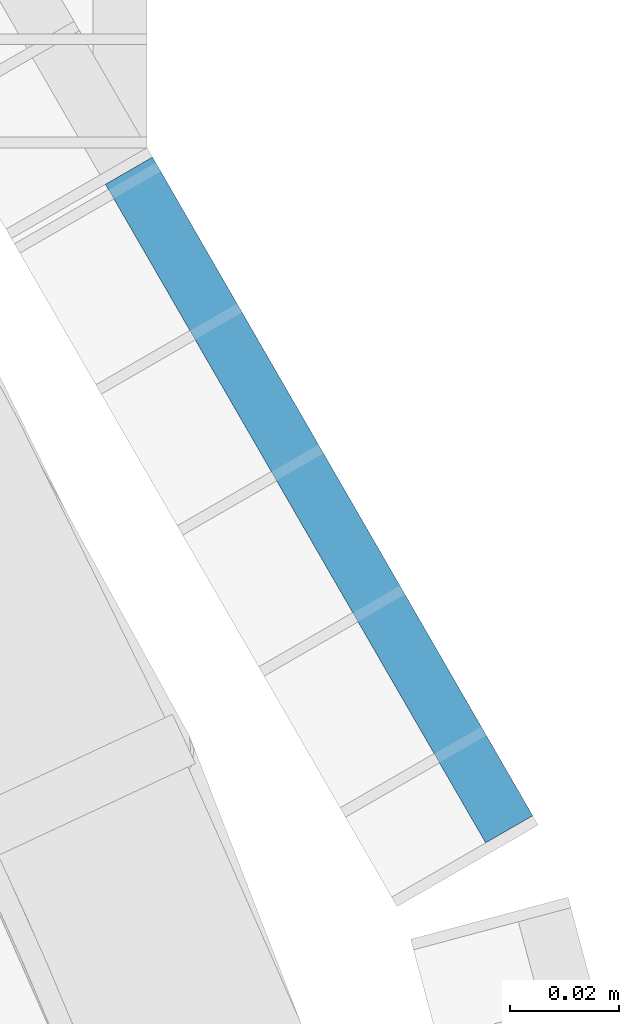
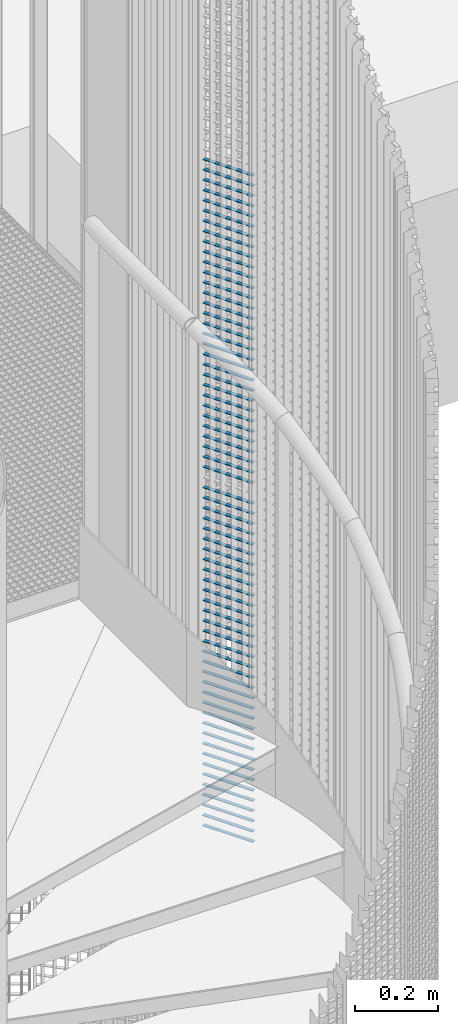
# One storey, part 281 of 1148: 65 beams, 1 element without a shape of its own.
"""IFC2X3 building model written with IfcOpenShell, lengths in millimetres."""

from ifc_helpers import new_model, si_unit, frame, origin_with_axes, origin_2d_with_axis, place, context, subcontext, project, spatial, rectangle, extrude, material, type_object, element, aggregate, save


model = new_model("IFC2X3")

# Units and contexts
model_context = context("Model", 3, precision=1e-05, world=origin_with_axes())
body_context = subcontext(model_context, "Body", "Model", "MODEL_VIEW")
ifc_project = project(units=[si_unit("LENGTHUNIT", "METRE", prefix="MILLI"), si_unit("AREAUNIT", "SQUARE_METRE"), si_unit("VOLUMEUNIT", "CUBIC_METRE"), si_unit("MASSUNIT", "GRAM", prefix="KILO"), si_unit("TIMEUNIT", "SECOND"), si_unit("PLANEANGLEUNIT", "RADIAN"), si_unit("SOLIDANGLEUNIT", "STERADIAN"), si_unit("THERMODYNAMICTEMPERATUREUNIT", "DEGREE_CELSIUS"), si_unit("LUMINOUSINTENSITYUNIT", "LUMEN")], contexts=[model_context])

# Site, building, storey
site_placement = place(None, origin_with_axes())
site = spatial("IfcSite", under=ifc_project, at=site_placement, Name="Undefined", CompositionType="ELEMENT")
building_placement = place(site_placement, origin_with_axes())
building = spatial("IfcBuilding", under=site, at=building_placement, Name="Undefined", CompositionType="ELEMENT")
storey_placement = place(building_placement, origin_with_axes())
storey = spatial("IfcBuildingStorey", under=building, at=storey_placement, Name="Undefined", CompositionType="ELEMENT", Elevation=0.0)

# Assembly, beams
assembly_placement = place(storey_placement, origin_with_axes())
assembly = element("IfcElementAssembly", 1, at=assembly_placement, inside=storey, Name="BORDURE", AssemblyPlace="NOTDEFINED", PredefinedType="NOTDEFINED")
ifc_material = material(Name="STEEL/S235JR")
beam_type = type_object("IfcBeamType", Name="PL2*10", PredefinedType="NOTDEFINED")
beam_1_placement = place(assembly_placement, frame((1033.29994283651, 437.231999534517, 8040.0), z_axis=(0.866030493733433, 0.499991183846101, 0.0), x_axis=(-0.499991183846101, 0.866030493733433, 0.0)))
beam_1 = element("IfcBeam", 2, at=beam_1_placement, type_object=beam_type, material=ifc_material, Name="ENTRETOISE", context=body_context, shape_type="SweptSolid", body=[
    extrude(rectangle(XDim=2.0, YDim=10.0, at=origin_2d_with_axis()), frame((140.102470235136, 0.0, 0.0), z_axis=(-1.0, 0.0, 0.0), x_axis=(0.0, -1.0, 0.0)), (0.0, 0.0, 1.0), 140.1),
])
beam_2_placement = place(assembly_placement, frame((1033.29994283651, 437.231999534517, 8010.0), z_axis=(0.866030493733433, 0.499991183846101, 0.0), x_axis=(-0.499991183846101, 0.866030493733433, 0.0)))
beam_2 = element("IfcBeam", 3, at=beam_2_placement, type_object=beam_type, material=ifc_material, Name="ENTRETOISE", context=body_context, shape_type="SweptSolid", body=[
    extrude(rectangle(XDim=2.0, YDim=10.0, at=origin_2d_with_axis()), frame((140.102470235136, 0.0, 0.0), z_axis=(-1.0, 0.0, 0.0), x_axis=(0.0, -1.0, 0.0)), (0.0, 0.0, 1.0), 140.1),
])
beam_3_placement = place(assembly_placement, frame((1033.29994283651, 437.231999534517, 7980.0), z_axis=(0.866030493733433, 0.499991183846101, 0.0), x_axis=(-0.499991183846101, 0.866030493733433, 0.0)))
beam_3 = element("IfcBeam", 4, at=beam_3_placement, type_object=beam_type, material=ifc_material, Name="ENTRETOISE", context=body_context, shape_type="SweptSolid", body=[
    extrude(rectangle(XDim=2.0, YDim=10.0, at=origin_2d_with_axis()), frame((140.102470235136, 0.0, 0.0), z_axis=(-1.0, 0.0, 0.0), x_axis=(0.0, -1.0, 0.0)), (0.0, 0.0, 1.0), 140.1),
])
beam_4_placement = place(assembly_placement, frame((1033.29994283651, 437.231999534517, 7950.0), z_axis=(0.866030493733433, 0.499991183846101, 0.0), x_axis=(-0.499991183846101, 0.866030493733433, 0.0)))
beam_4 = element("IfcBeam", 5, at=beam_4_placement, type_object=beam_type, material=ifc_material, Name="ENTRETOISE", context=body_context, shape_type="SweptSolid", body=[
    extrude(rectangle(XDim=2.0, YDim=10.0, at=origin_2d_with_axis()), frame((140.102470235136, 0.0, 0.0), z_axis=(-1.0, 0.0, 0.0), x_axis=(0.0, -1.0, 0.0)), (0.0, 0.0, 1.0), 140.1),
])
beam_5_placement = place(assembly_placement, frame((1033.29994283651, 437.231999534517, 7920.0), z_axis=(0.866030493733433, 0.499991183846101, 0.0), x_axis=(-0.499991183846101, 0.866030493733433, 0.0)))
beam_5 = element("IfcBeam", 6, at=beam_5_placement, type_object=beam_type, material=ifc_material, Name="ENTRETOISE", context=body_context, shape_type="SweptSolid", body=[
    extrude(rectangle(XDim=2.0, YDim=10.0, at=origin_2d_with_axis()), frame((140.102470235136, 0.0, 0.0), z_axis=(-1.0, 0.0, 0.0), x_axis=(0.0, -1.0, 0.0)), (0.0, 0.0, 1.0), 140.1),
])
beam_6_placement = place(assembly_placement, frame((1033.29994283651, 437.231999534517, 7890.0), z_axis=(0.866030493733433, 0.499991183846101, 0.0), x_axis=(-0.499991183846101, 0.866030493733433, 0.0)))
beam_6 = element("IfcBeam", 7, at=beam_6_placement, type_object=beam_type, material=ifc_material, Name="ENTRETOISE", context=body_context, shape_type="SweptSolid", body=[
    extrude(rectangle(XDim=2.0, YDim=10.0, at=origin_2d_with_axis()), frame((140.102470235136, 0.0, 0.0), z_axis=(-1.0, 0.0, 0.0), x_axis=(0.0, -1.0, 0.0)), (0.0, 0.0, 1.0), 140.1),
])
beam_7_placement = place(assembly_placement, frame((1033.29994283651, 437.231999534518, 7860.0), z_axis=(0.866030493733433, 0.499991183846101, 0.0), x_axis=(-0.499991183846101, 0.866030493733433, 0.0)))
beam_7 = element("IfcBeam", 8, at=beam_7_placement, type_object=beam_type, material=ifc_material, Name="ENTRETOISE", context=body_context, shape_type="SweptSolid", body=[
    extrude(rectangle(XDim=2.0, YDim=10.0, at=origin_2d_with_axis()), frame((140.102470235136, 0.0, 0.0), z_axis=(-1.0, 0.0, 0.0), x_axis=(0.0, -1.0, 0.0)), (0.0, 0.0, 1.0), 140.1),
])
beam_8_placement = place(assembly_placement, frame((1033.29994283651, 437.231999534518, 7830.0), z_axis=(0.866030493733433, 0.499991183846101, 0.0), x_axis=(-0.499991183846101, 0.866030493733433, 0.0)))
beam_8 = element("IfcBeam", 9, at=beam_8_placement, type_object=beam_type, material=ifc_material, Name="ENTRETOISE", context=body_context, shape_type="SweptSolid", body=[
    extrude(rectangle(XDim=2.0, YDim=10.0, at=origin_2d_with_axis()), frame((140.102470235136, 0.0, 0.0), z_axis=(-1.0, 0.0, 0.0), x_axis=(0.0, -1.0, 0.0)), (0.0, 0.0, 1.0), 140.1),
])
beam_9_placement = place(assembly_placement, frame((1033.29994283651, 437.231999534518, 7800.0), z_axis=(0.866030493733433, 0.499991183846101, 0.0), x_axis=(-0.499991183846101, 0.866030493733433, 0.0)))
beam_9 = element("IfcBeam", 10, at=beam_9_placement, type_object=beam_type, material=ifc_material, Name="ENTRETOISE", context=body_context, shape_type="SweptSolid", body=[
    extrude(rectangle(XDim=2.0, YDim=10.0, at=origin_2d_with_axis()), frame((140.102470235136, 0.0, 0.0), z_axis=(-1.0, 0.0, 0.0), x_axis=(0.0, -1.0, 0.0)), (0.0, 0.0, 1.0), 140.1),
])
beam_10_placement = place(assembly_placement, frame((1033.29994283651, 437.231999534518, 7770.0), z_axis=(0.866030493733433, 0.499991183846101, 0.0), x_axis=(-0.499991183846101, 0.866030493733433, 0.0)))
beam_10 = element("IfcBeam", 11, at=beam_10_placement, type_object=beam_type, material=ifc_material, Name="ENTRETOISE", context=body_context, shape_type="SweptSolid", body=[
    extrude(rectangle(XDim=2.0, YDim=10.0, at=origin_2d_with_axis()), frame((140.102470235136, 0.0, 0.0), z_axis=(-1.0, 0.0, 0.0), x_axis=(0.0, -1.0, 0.0)), (0.0, 0.0, 1.0), 140.1),
])
beam_11_placement = place(assembly_placement, frame((1033.29994283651, 437.231999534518, 7740.0), z_axis=(0.866030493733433, 0.499991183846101, 0.0), x_axis=(-0.499991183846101, 0.866030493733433, 0.0)))
beam_11 = element("IfcBeam", 12, at=beam_11_placement, type_object=beam_type, material=ifc_material, Name="ENTRETOISE", context=body_context, shape_type="SweptSolid", body=[
    extrude(rectangle(XDim=2.0, YDim=10.0, at=origin_2d_with_axis()), frame((140.102470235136, 0.0, 0.0), z_axis=(-1.0, 0.0, 0.0), x_axis=(0.0, -1.0, 0.0)), (0.0, 0.0, 1.0), 140.1),
])
beam_12_placement = place(assembly_placement, frame((1033.29994283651, 437.231999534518, 7710.0), z_axis=(0.866030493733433, 0.499991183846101, 0.0), x_axis=(-0.499991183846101, 0.866030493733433, 0.0)))
beam_12 = element("IfcBeam", 13, at=beam_12_placement, type_object=beam_type, material=ifc_material, Name="ENTRETOISE", context=body_context, shape_type="SweptSolid", body=[
    extrude(rectangle(XDim=2.0, YDim=10.0, at=origin_2d_with_axis()), frame((140.102470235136, 0.0, 0.0), z_axis=(-1.0, 0.0, 0.0), x_axis=(0.0, -1.0, 0.0)), (0.0, 0.0, 1.0), 140.1),
])
beam_13_placement = place(assembly_placement, frame((1033.29994283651, 437.231999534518, 7680.0), z_axis=(0.866030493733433, 0.499991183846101, 0.0), x_axis=(-0.499991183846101, 0.866030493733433, 0.0)))
beam_13 = element("IfcBeam", 14, at=beam_13_placement, type_object=beam_type, material=ifc_material, Name="ENTRETOISE", context=body_context, shape_type="SweptSolid", body=[
    extrude(rectangle(XDim=2.0, YDim=10.0, at=origin_2d_with_axis()), frame((140.102470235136, 0.0, 0.0), z_axis=(-1.0, 0.0, 0.0), x_axis=(0.0, -1.0, 0.0)), (0.0, 0.0, 1.0), 140.1),
])
beam_14_placement = place(assembly_placement, frame((1033.29994283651, 437.231999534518, 7650.0), z_axis=(0.866030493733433, 0.499991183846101, 0.0), x_axis=(-0.499991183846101, 0.866030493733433, 0.0)))
beam_14 = element("IfcBeam", 15, at=beam_14_placement, type_object=beam_type, material=ifc_material, Name="ENTRETOISE", context=body_context, shape_type="SweptSolid", body=[
    extrude(rectangle(XDim=2.0, YDim=10.0, at=origin_2d_with_axis()), frame((140.102470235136, 0.0, 0.0), z_axis=(-1.0, 0.0, 0.0), x_axis=(0.0, -1.0, 0.0)), (0.0, 0.0, 1.0), 140.1),
])
beam_15_placement = place(assembly_placement, frame((1033.29994283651, 437.231999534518, 7620.0), z_axis=(0.866030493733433, 0.499991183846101, 0.0), x_axis=(-0.499991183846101, 0.866030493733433, 0.0)))
beam_15 = element("IfcBeam", 16, at=beam_15_placement, type_object=beam_type, material=ifc_material, Name="ENTRETOISE", context=body_context, shape_type="SweptSolid", body=[
    extrude(rectangle(XDim=2.0, YDim=10.0, at=origin_2d_with_axis()), frame((140.102470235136, 0.0, 0.0), z_axis=(-1.0, 0.0, 0.0), x_axis=(0.0, -1.0, 0.0)), (0.0, 0.0, 1.0), 140.1),
])
beam_16_placement = place(assembly_placement, frame((1033.29994283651, 437.231999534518, 7590.0), z_axis=(0.866030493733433, 0.499991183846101, 0.0), x_axis=(-0.499991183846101, 0.866030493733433, 0.0)))
beam_16 = element("IfcBeam", 17, at=beam_16_placement, type_object=beam_type, material=ifc_material, Name="ENTRETOISE", context=body_context, shape_type="SweptSolid", body=[
    extrude(rectangle(XDim=2.0, YDim=10.0, at=origin_2d_with_axis()), frame((140.102470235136, 0.0, 0.0), z_axis=(-1.0, 0.0, 0.0), x_axis=(0.0, -1.0, 0.0)), (0.0, 0.0, 1.0), 140.1),
])
beam_17_placement = place(assembly_placement, frame((1033.29994283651, 437.231999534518, 7560.0), z_axis=(0.866030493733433, 0.499991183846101, 0.0), x_axis=(-0.499991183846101, 0.866030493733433, 0.0)))
beam_17 = element("IfcBeam", 18, at=beam_17_placement, type_object=beam_type, material=ifc_material, Name="ENTRETOISE", context=body_context, shape_type="SweptSolid", body=[
    extrude(rectangle(XDim=2.0, YDim=10.0, at=origin_2d_with_axis()), frame((140.102470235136, 0.0, 0.0), z_axis=(-1.0, 0.0, 0.0), x_axis=(0.0, -1.0, 0.0)), (0.0, 0.0, 1.0), 140.1),
])
beam_18_placement = place(assembly_placement, frame((1033.29994283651, 437.231999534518, 7530.0), z_axis=(0.866030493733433, 0.499991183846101, 0.0), x_axis=(-0.499991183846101, 0.866030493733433, 0.0)))
beam_18 = element("IfcBeam", 19, at=beam_18_placement, type_object=beam_type, material=ifc_material, Name="ENTRETOISE", context=body_context, shape_type="SweptSolid", body=[
    extrude(rectangle(XDim=2.0, YDim=10.0, at=origin_2d_with_axis()), frame((140.102470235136, 0.0, 0.0), z_axis=(-1.0, 0.0, 0.0), x_axis=(0.0, -1.0, 0.0)), (0.0, 0.0, 1.0), 140.1),
])
beam_19_placement = place(assembly_placement, frame((1033.29994283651, 437.231999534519, 7500.0), z_axis=(0.866030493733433, 0.499991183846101, 0.0), x_axis=(-0.499991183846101, 0.866030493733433, 0.0)))
beam_19 = element("IfcBeam", 20, at=beam_19_placement, type_object=beam_type, material=ifc_material, Name="ENTRETOISE", context=body_context, shape_type="SweptSolid", body=[
    extrude(rectangle(XDim=2.0, YDim=10.0, at=origin_2d_with_axis()), frame((140.102470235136, 0.0, 0.0), z_axis=(-1.0, 0.0, 0.0), x_axis=(0.0, -1.0, 0.0)), (0.0, 0.0, 1.0), 140.1),
])
beam_20_placement = place(assembly_placement, frame((1033.29994283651, 437.231999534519, 7470.0), z_axis=(0.866030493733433, 0.499991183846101, 0.0), x_axis=(-0.499991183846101, 0.866030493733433, 0.0)))
beam_20 = element("IfcBeam", 21, at=beam_20_placement, type_object=beam_type, material=ifc_material, Name="ENTRETOISE", context=body_context, shape_type="SweptSolid", body=[
    extrude(rectangle(XDim=2.0, YDim=10.0, at=origin_2d_with_axis()), frame((140.102470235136, 0.0, 0.0), z_axis=(-1.0, 0.0, 0.0), x_axis=(0.0, -1.0, 0.0)), (0.0, 0.0, 1.0), 140.1),
])
beam_21_placement = place(assembly_placement, frame((1033.29994283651, 437.231999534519, 7440.0), z_axis=(0.866030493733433, 0.499991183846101, 0.0), x_axis=(-0.499991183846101, 0.866030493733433, 0.0)))
beam_21 = element("IfcBeam", 22, at=beam_21_placement, type_object=beam_type, material=ifc_material, Name="ENTRETOISE", context=body_context, shape_type="SweptSolid", body=[
    extrude(rectangle(XDim=2.0, YDim=10.0, at=origin_2d_with_axis()), frame((140.102470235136, 0.0, 0.0), z_axis=(-1.0, 0.0, 0.0), x_axis=(0.0, -1.0, 0.0)), (0.0, 0.0, 1.0), 140.1),
])
beam_22_placement = place(assembly_placement, frame((1033.29994283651, 437.231999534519, 7410.0), z_axis=(0.866030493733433, 0.499991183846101, 0.0), x_axis=(-0.499991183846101, 0.866030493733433, 0.0)))
beam_22 = element("IfcBeam", 23, at=beam_22_placement, type_object=beam_type, material=ifc_material, Name="ENTRETOISE", context=body_context, shape_type="SweptSolid", body=[
    extrude(rectangle(XDim=2.0, YDim=10.0, at=origin_2d_with_axis()), frame((140.102470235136, 0.0, 0.0), z_axis=(-1.0, 0.0, 0.0), x_axis=(0.0, -1.0, 0.0)), (0.0, 0.0, 1.0), 140.1),
])
beam_23_placement = place(assembly_placement, frame((1033.29994283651, 437.231999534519, 7380.0), z_axis=(0.866030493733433, 0.499991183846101, 0.0), x_axis=(-0.499991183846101, 0.866030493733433, 0.0)))
beam_23 = element("IfcBeam", 24, at=beam_23_placement, type_object=beam_type, material=ifc_material, Name="ENTRETOISE", context=body_context, shape_type="SweptSolid", body=[
    extrude(rectangle(XDim=2.0, YDim=10.0, at=origin_2d_with_axis()), frame((140.102470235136, 0.0, 0.0), z_axis=(-1.0, 0.0, 0.0), x_axis=(0.0, -1.0, 0.0)), (0.0, 0.0, 1.0), 140.1),
])
beam_24_placement = place(assembly_placement, frame((1033.29994283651, 437.231999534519, 7350.0), z_axis=(0.866030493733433, 0.499991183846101, 0.0), x_axis=(-0.499991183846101, 0.866030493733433, 0.0)))
beam_24 = element("IfcBeam", 25, at=beam_24_placement, type_object=beam_type, material=ifc_material, Name="ENTRETOISE", context=body_context, shape_type="SweptSolid", body=[
    extrude(rectangle(XDim=2.0, YDim=10.0, at=origin_2d_with_axis()), frame((140.102470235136, 0.0, 0.0), z_axis=(-1.0, 0.0, 0.0), x_axis=(0.0, -1.0, 0.0)), (0.0, 0.0, 1.0), 140.1),
])
beam_25_placement = place(assembly_placement, frame((1033.29994283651, 437.231999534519, 7320.0), z_axis=(0.866030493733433, 0.499991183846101, 0.0), x_axis=(-0.499991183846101, 0.866030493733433, 0.0)))
beam_25 = element("IfcBeam", 26, at=beam_25_placement, type_object=beam_type, material=ifc_material, Name="ENTRETOISE", context=body_context, shape_type="SweptSolid", body=[
    extrude(rectangle(XDim=2.0, YDim=10.0, at=origin_2d_with_axis()), frame((140.102470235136, 0.0, 0.0), z_axis=(-1.0, 0.0, 0.0), x_axis=(0.0, -1.0, 0.0)), (0.0, 0.0, 1.0), 140.1),
])
beam_26_placement = place(assembly_placement, frame((1033.29994283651, 437.231999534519, 7290.0), z_axis=(0.866030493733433, 0.499991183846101, 0.0), x_axis=(-0.499991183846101, 0.866030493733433, 0.0)))
beam_26 = element("IfcBeam", 27, at=beam_26_placement, type_object=beam_type, material=ifc_material, Name="ENTRETOISE", context=body_context, shape_type="SweptSolid", body=[
    extrude(rectangle(XDim=2.0, YDim=10.0, at=origin_2d_with_axis()), frame((140.102470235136, 0.0, 0.0), z_axis=(-1.0, 0.0, 0.0), x_axis=(0.0, -1.0, 0.0)), (0.0, 0.0, 1.0), 140.1),
])
beam_27_placement = place(assembly_placement, frame((1033.29994283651, 437.231999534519, 7260.0), z_axis=(0.866030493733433, 0.499991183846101, 0.0), x_axis=(-0.499991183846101, 0.866030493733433, 0.0)))
beam_27 = element("IfcBeam", 28, at=beam_27_placement, type_object=beam_type, material=ifc_material, Name="ENTRETOISE", context=body_context, shape_type="SweptSolid", body=[
    extrude(rectangle(XDim=2.0, YDim=10.0, at=origin_2d_with_axis()), frame((140.102470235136, 0.0, 0.0), z_axis=(-1.0, 0.0, 0.0), x_axis=(0.0, -1.0, 0.0)), (0.0, 0.0, 1.0), 140.1),
])
beam_28_placement = place(assembly_placement, frame((1033.29994283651, 437.231999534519, 7230.0), z_axis=(0.866030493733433, 0.499991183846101, 0.0), x_axis=(-0.499991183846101, 0.866030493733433, 0.0)))
beam_28 = element("IfcBeam", 29, at=beam_28_placement, type_object=beam_type, material=ifc_material, Name="ENTRETOISE", context=body_context, shape_type="SweptSolid", body=[
    extrude(rectangle(XDim=2.0, YDim=10.0, at=origin_2d_with_axis()), frame((140.102470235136, 0.0, 0.0), z_axis=(-1.0, 0.0, 0.0), x_axis=(0.0, -1.0, 0.0)), (0.0, 0.0, 1.0), 140.1),
])
beam_29_placement = place(assembly_placement, frame((1033.29994283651, 437.231999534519, 7200.0), z_axis=(0.866030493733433, 0.499991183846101, 0.0), x_axis=(-0.499991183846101, 0.866030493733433, 0.0)))
beam_29 = element("IfcBeam", 30, at=beam_29_placement, type_object=beam_type, material=ifc_material, Name="ENTRETOISE", context=body_context, shape_type="SweptSolid", body=[
    extrude(rectangle(XDim=2.0, YDim=10.0, at=origin_2d_with_axis()), frame((140.102470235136, 0.0, 0.0), z_axis=(-1.0, 0.0, 0.0), x_axis=(0.0, -1.0, 0.0)), (0.0, 0.0, 1.0), 140.1),
])
beam_30_placement = place(assembly_placement, frame((1033.29994283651, 437.23199953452, 7170.0), z_axis=(0.866030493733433, 0.499991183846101, 0.0), x_axis=(-0.499991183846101, 0.866030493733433, 0.0)))
beam_30 = element("IfcBeam", 31, at=beam_30_placement, type_object=beam_type, material=ifc_material, Name="ENTRETOISE", context=body_context, shape_type="SweptSolid", body=[
    extrude(rectangle(XDim=2.0, YDim=10.0, at=origin_2d_with_axis()), frame((140.102470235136, 0.0, 0.0), z_axis=(-1.0, 0.0, 0.0), x_axis=(0.0, -1.0, 0.0)), (0.0, 0.0, 1.0), 140.1),
])
beam_31_placement = place(assembly_placement, frame((1033.29994283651, 437.23199953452, 7140.0), z_axis=(0.866030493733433, 0.499991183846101, 0.0), x_axis=(-0.499991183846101, 0.866030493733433, 0.0)))
beam_31 = element("IfcBeam", 32, at=beam_31_placement, type_object=beam_type, material=ifc_material, Name="ENTRETOISE", context=body_context, shape_type="SweptSolid", body=[
    extrude(rectangle(XDim=2.0, YDim=10.0, at=origin_2d_with_axis()), frame((140.102470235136, 0.0, 0.0), z_axis=(-1.0, 0.0, 0.0), x_axis=(0.0, -1.0, 0.0)), (0.0, 0.0, 1.0), 140.1),
])
beam_32_placement = place(assembly_placement, frame((1033.29994283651, 437.231999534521, 6720.0), z_axis=(0.866030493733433, 0.499991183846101, 0.0), x_axis=(-0.499991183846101, 0.866030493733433, 0.0)))
beam_32 = element("IfcBeam", 33, at=beam_32_placement, type_object=beam_type, material=ifc_material, Name="ENTRETOISE", context=body_context, shape_type="SweptSolid", body=[
    extrude(rectangle(XDim=2.0, YDim=10.0, at=origin_2d_with_axis()), frame((140.102470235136, 0.0, 0.0), z_axis=(-1.0, 0.0, 0.0), x_axis=(0.0, -1.0, 0.0)), (0.0, 0.0, 1.0), 140.1),
])
beam_33_placement = place(assembly_placement, frame((1033.29994283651, 437.231999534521, 6690.0), z_axis=(0.866030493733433, 0.499991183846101, 0.0), x_axis=(-0.499991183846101, 0.866030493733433, 0.0)))
beam_33 = element("IfcBeam", 34, at=beam_33_placement, type_object=beam_type, material=ifc_material, Name="ENTRETOISE", context=body_context, shape_type="SweptSolid", body=[
    extrude(rectangle(XDim=2.0, YDim=10.0, at=origin_2d_with_axis()), frame((140.102470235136, 0.0, 0.0), z_axis=(-1.0, 0.0, 0.0), x_axis=(0.0, -1.0, 0.0)), (0.0, 0.0, 1.0), 140.1),
])
beam_34_placement = place(assembly_placement, frame((1033.29994283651, 437.231999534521, 6750.0), z_axis=(0.866030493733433, 0.499991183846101, 0.0), x_axis=(-0.499991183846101, 0.866030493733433, 0.0)))
beam_34 = element("IfcBeam", 35, at=beam_34_placement, type_object=beam_type, material=ifc_material, Name="ENTRETOISE", context=body_context, shape_type="SweptSolid", body=[
    extrude(rectangle(XDim=2.0, YDim=10.0, at=origin_2d_with_axis()), frame((140.102470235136, 0.0, 0.0), z_axis=(-1.0, 0.0, 0.0), x_axis=(0.0, -1.0, 0.0)), (0.0, 0.0, 1.0), 140.1),
])
beam_35_placement = place(assembly_placement, frame((1033.29994283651, 437.231999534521, 6660.0), z_axis=(0.866030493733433, 0.499991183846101, 0.0), x_axis=(-0.499991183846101, 0.866030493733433, 0.0)))
beam_35 = element("IfcBeam", 36, at=beam_35_placement, type_object=beam_type, material=ifc_material, Name="ENTRETOISE", context=body_context, shape_type="SweptSolid", body=[
    extrude(rectangle(XDim=2.0, YDim=10.0, at=origin_2d_with_axis()), frame((140.102470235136, 0.0, 0.0), z_axis=(-1.0, 0.0, 0.0), x_axis=(0.0, -1.0, 0.0)), (0.0, 0.0, 1.0), 140.1),
])
beam_36_placement = place(assembly_placement, frame((1033.29994283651, 437.231999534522, 6630.0), z_axis=(0.866030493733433, 0.499991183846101, 0.0), x_axis=(-0.499991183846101, 0.866030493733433, 0.0)))
beam_36 = element("IfcBeam", 37, at=beam_36_placement, type_object=beam_type, material=ifc_material, Name="ENTRETOISE", context=body_context, shape_type="SweptSolid", body=[
    extrude(rectangle(XDim=2.0, YDim=10.0, at=origin_2d_with_axis()), frame((140.102470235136, 0.0, 0.0), z_axis=(-1.0, 0.0, 0.0), x_axis=(0.0, -1.0, 0.0)), (0.0, 0.0, 1.0), 140.1),
])
beam_37_placement = place(assembly_placement, frame((1033.29994283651, 437.231999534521, 6780.0), z_axis=(0.866030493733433, 0.499991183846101, 0.0), x_axis=(-0.499991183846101, 0.866030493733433, 0.0)))
beam_37 = element("IfcBeam", 38, at=beam_37_placement, type_object=beam_type, material=ifc_material, Name="ENTRETOISE", context=body_context, shape_type="SweptSolid", body=[
    extrude(rectangle(XDim=2.0, YDim=10.0, at=origin_2d_with_axis()), frame((140.102470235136, 0.0, 0.0), z_axis=(-1.0, 0.0, 0.0), x_axis=(0.0, -1.0, 0.0)), (0.0, 0.0, 1.0), 140.1),
])
beam_38_placement = place(assembly_placement, frame((1033.29994283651, 437.231999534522, 6600.0), z_axis=(0.866030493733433, 0.499991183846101, 0.0), x_axis=(-0.499991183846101, 0.866030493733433, 0.0)))
beam_38 = element("IfcBeam", 39, at=beam_38_placement, type_object=beam_type, material=ifc_material, Name="ENTRETOISE", context=body_context, shape_type="SweptSolid", body=[
    extrude(rectangle(XDim=2.0, YDim=10.0, at=origin_2d_with_axis()), frame((140.102470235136, 0.0, 0.0), z_axis=(-1.0, 0.0, 0.0), x_axis=(0.0, -1.0, 0.0)), (0.0, 0.0, 1.0), 140.1),
])
beam_39_placement = place(assembly_placement, frame((1033.29994283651, 437.231999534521, 6810.0), z_axis=(0.866030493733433, 0.499991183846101, 0.0), x_axis=(-0.499991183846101, 0.866030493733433, 0.0)))
beam_39 = element("IfcBeam", 40, at=beam_39_placement, type_object=beam_type, material=ifc_material, Name="ENTRETOISE", context=body_context, shape_type="SweptSolid", body=[
    extrude(rectangle(XDim=2.0, YDim=10.0, at=origin_2d_with_axis()), frame((140.102470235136, 0.0, 0.0), z_axis=(-1.0, 0.0, 0.0), x_axis=(0.0, -1.0, 0.0)), (0.0, 0.0, 1.0), 140.1),
])
beam_40_placement = place(assembly_placement, frame((1033.29994283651, 437.231999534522, 6570.0), z_axis=(0.866030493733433, 0.499991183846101, 0.0), x_axis=(-0.499991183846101, 0.866030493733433, 0.0)))
beam_40 = element("IfcBeam", 41, at=beam_40_placement, type_object=beam_type, material=ifc_material, Name="ENTRETOISE", context=body_context, shape_type="SweptSolid", body=[
    extrude(rectangle(XDim=2.0, YDim=10.0, at=origin_2d_with_axis()), frame((140.102470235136, 0.0, 0.0), z_axis=(-1.0, 0.0, 0.0), x_axis=(0.0, -1.0, 0.0)), (0.0, 0.0, 1.0), 140.1),
])
beam_41_placement = place(assembly_placement, frame((1033.29994283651, 437.231999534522, 6540.0), z_axis=(0.866030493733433, 0.499991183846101, 0.0), x_axis=(-0.499991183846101, 0.866030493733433, 0.0)))
beam_41 = element("IfcBeam", 42, at=beam_41_placement, type_object=beam_type, material=ifc_material, Name="ENTRETOISE", context=body_context, shape_type="SweptSolid", body=[
    extrude(rectangle(XDim=2.0, YDim=10.0, at=origin_2d_with_axis()), frame((140.102470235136, 0.0, 0.0), z_axis=(-1.0, 0.0, 0.0), x_axis=(0.0, -1.0, 0.0)), (0.0, 0.0, 1.0), 140.1),
])
beam_42_placement = place(assembly_placement, frame((1033.29994283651, 437.231999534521, 6840.0), z_axis=(0.866030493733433, 0.499991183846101, 0.0), x_axis=(-0.499991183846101, 0.866030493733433, 0.0)))
beam_42 = element("IfcBeam", 43, at=beam_42_placement, type_object=beam_type, material=ifc_material, Name="ENTRETOISE", context=body_context, shape_type="SweptSolid", body=[
    extrude(rectangle(XDim=2.0, YDim=10.0, at=origin_2d_with_axis()), frame((140.102470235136, 0.0, 0.0), z_axis=(-1.0, 0.0, 0.0), x_axis=(0.0, -1.0, 0.0)), (0.0, 0.0, 1.0), 140.1),
])
beam_43_placement = place(assembly_placement, frame((1033.29994283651, 437.231999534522, 6510.0), z_axis=(0.866030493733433, 0.499991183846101, 0.0), x_axis=(-0.499991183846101, 0.866030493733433, 0.0)))
beam_43 = element("IfcBeam", 44, at=beam_43_placement, type_object=beam_type, material=ifc_material, Name="ENTRETOISE", context=body_context, shape_type="SweptSolid", body=[
    extrude(rectangle(XDim=2.0, YDim=10.0, at=origin_2d_with_axis()), frame((140.102470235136, 0.0, 0.0), z_axis=(-1.0, 0.0, 0.0), x_axis=(0.0, -1.0, 0.0)), (0.0, 0.0, 1.0), 140.1),
])
beam_44_placement = place(assembly_placement, frame((1033.29994283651, 437.231999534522, 6480.0), z_axis=(0.866030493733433, 0.499991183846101, 0.0), x_axis=(-0.499991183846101, 0.866030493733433, 0.0)))
beam_44 = element("IfcBeam", 45, at=beam_44_placement, type_object=beam_type, material=ifc_material, Name="ENTRETOISE", context=body_context, shape_type="SweptSolid", body=[
    extrude(rectangle(XDim=2.0, YDim=10.0, at=origin_2d_with_axis()), frame((140.102470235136, 0.0, 0.0), z_axis=(-1.0, 0.0, 0.0), x_axis=(0.0, -1.0, 0.0)), (0.0, 0.0, 1.0), 140.1),
])
beam_45_placement = place(assembly_placement, frame((1033.29994283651, 437.231999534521, 6870.0), z_axis=(0.866030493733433, 0.499991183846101, 0.0), x_axis=(-0.499991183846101, 0.866030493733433, 0.0)))
beam_45 = element("IfcBeam", 46, at=beam_45_placement, type_object=beam_type, material=ifc_material, Name="ENTRETOISE", context=body_context, shape_type="SweptSolid", body=[
    extrude(rectangle(XDim=2.0, YDim=10.0, at=origin_2d_with_axis()), frame((140.102470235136, 0.0, 0.0), z_axis=(-1.0, 0.0, 0.0), x_axis=(0.0, -1.0, 0.0)), (0.0, 0.0, 1.0), 140.1),
])
beam_46_placement = place(assembly_placement, frame((1033.29994283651, 437.231999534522, 6450.0), z_axis=(0.866030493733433, 0.499991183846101, 0.0), x_axis=(-0.499991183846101, 0.866030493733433, 0.0)))
beam_46 = element("IfcBeam", 47, at=beam_46_placement, type_object=beam_type, material=ifc_material, Name="ENTRETOISE", context=body_context, shape_type="SweptSolid", body=[
    extrude(rectangle(XDim=2.0, YDim=10.0, at=origin_2d_with_axis()), frame((140.102470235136, 0.0, 0.0), z_axis=(-1.0, 0.0, 0.0), x_axis=(0.0, -1.0, 0.0)), (0.0, 0.0, 1.0), 140.1),
])
beam_47_placement = place(assembly_placement, frame((1033.29994283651, 437.231999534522, 6420.0), z_axis=(0.866030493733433, 0.499991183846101, 0.0), x_axis=(-0.499991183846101, 0.866030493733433, 0.0)))
beam_47 = element("IfcBeam", 48, at=beam_47_placement, type_object=beam_type, material=ifc_material, Name="ENTRETOISE", context=body_context, shape_type="SweptSolid", body=[
    extrude(rectangle(XDim=2.0, YDim=10.0, at=origin_2d_with_axis()), frame((140.102470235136, 0.0, 0.0), z_axis=(-1.0, 0.0, 0.0), x_axis=(0.0, -1.0, 0.0)), (0.0, 0.0, 1.0), 140.1),
])
beam_48_placement = place(assembly_placement, frame((1033.29994283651, 437.231999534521, 6900.0), z_axis=(0.866030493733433, 0.499991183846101, 0.0), x_axis=(-0.499991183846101, 0.866030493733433, 0.0)))
beam_48 = element("IfcBeam", 49, at=beam_48_placement, type_object=beam_type, material=ifc_material, Name="ENTRETOISE", context=body_context, shape_type="SweptSolid", body=[
    extrude(rectangle(XDim=2.0, YDim=10.0, at=origin_2d_with_axis()), frame((140.102470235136, 0.0, 0.0), z_axis=(-1.0, 0.0, 0.0), x_axis=(0.0, -1.0, 0.0)), (0.0, 0.0, 1.0), 140.1),
])
beam_49_placement = place(assembly_placement, frame((1033.29994283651, 437.231999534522, 6390.0), z_axis=(0.866030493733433, 0.499991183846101, 0.0), x_axis=(-0.499991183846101, 0.866030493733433, 0.0)))
beam_49 = element("IfcBeam", 50, at=beam_49_placement, type_object=beam_type, material=ifc_material, Name="ENTRETOISE", context=body_context, shape_type="SweptSolid", body=[
    extrude(rectangle(XDim=2.0, YDim=10.0, at=origin_2d_with_axis()), frame((140.102470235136, 0.0, 0.0), z_axis=(-1.0, 0.0, 0.0), x_axis=(0.0, -1.0, 0.0)), (0.0, 0.0, 1.0), 140.1),
])
beam_50_placement = place(assembly_placement, frame((1033.29994283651, 437.23199953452, 6930.0), z_axis=(0.866030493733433, 0.499991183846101, 0.0), x_axis=(-0.499991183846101, 0.866030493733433, 0.0)))
beam_50 = element("IfcBeam", 51, at=beam_50_placement, type_object=beam_type, material=ifc_material, Name="ENTRETOISE", context=body_context, shape_type="SweptSolid", body=[
    extrude(rectangle(XDim=2.0, YDim=10.0, at=origin_2d_with_axis()), frame((140.102470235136, 0.0, 0.0), z_axis=(-1.0, 0.0, 0.0), x_axis=(0.0, -1.0, 0.0)), (0.0, 0.0, 1.0), 140.1),
])
beam_51_placement = place(assembly_placement, frame((1033.29994283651, 437.231999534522, 6360.0), z_axis=(0.866030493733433, 0.499991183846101, 0.0), x_axis=(-0.499991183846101, 0.866030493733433, 0.0)))
beam_51 = element("IfcBeam", 52, at=beam_51_placement, type_object=beam_type, material=ifc_material, Name="ENTRETOISE", context=body_context, shape_type="SweptSolid", body=[
    extrude(rectangle(XDim=2.0, YDim=10.0, at=origin_2d_with_axis()), frame((140.102470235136, 0.0, 0.0), z_axis=(-1.0, 0.0, 0.0), x_axis=(0.0, -1.0, 0.0)), (0.0, 0.0, 1.0), 140.1),
])
beam_52_placement = place(assembly_placement, frame((1033.29994283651, 437.231999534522, 6330.0), z_axis=(0.866030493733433, 0.499991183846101, 0.0), x_axis=(-0.499991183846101, 0.866030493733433, 0.0)))
beam_52 = element("IfcBeam", 53, at=beam_52_placement, type_object=beam_type, material=ifc_material, Name="ENTRETOISE", context=body_context, shape_type="SweptSolid", body=[
    extrude(rectangle(XDim=2.0, YDim=10.0, at=origin_2d_with_axis()), frame((140.102470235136, 0.0, 0.0), z_axis=(-1.0, 0.0, 0.0), x_axis=(0.0, -1.0, 0.0)), (0.0, 0.0, 1.0), 140.1),
])
beam_53_placement = place(assembly_placement, frame((1033.29994283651, 437.23199953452, 6960.0), z_axis=(0.866030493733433, 0.499991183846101, 0.0), x_axis=(-0.499991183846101, 0.866030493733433, 0.0)))
beam_53 = element("IfcBeam", 54, at=beam_53_placement, type_object=beam_type, material=ifc_material, Name="ENTRETOISE", context=body_context, shape_type="SweptSolid", body=[
    extrude(rectangle(XDim=2.0, YDim=10.0, at=origin_2d_with_axis()), frame((140.102470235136, 0.0, 0.0), z_axis=(-1.0, 0.0, 0.0), x_axis=(0.0, -1.0, 0.0)), (0.0, 0.0, 1.0), 140.1),
])
beam_54_placement = place(assembly_placement, frame((1033.29994283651, 437.231999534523, 6300.0), z_axis=(0.866030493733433, 0.499991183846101, 0.0), x_axis=(-0.499991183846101, 0.866030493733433, 0.0)))
beam_54 = element("IfcBeam", 55, at=beam_54_placement, type_object=beam_type, material=ifc_material, Name="ENTRETOISE", context=body_context, shape_type="SweptSolid", body=[
    extrude(rectangle(XDim=2.0, YDim=10.0, at=origin_2d_with_axis()), frame((140.102470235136, 0.0, 0.0), z_axis=(-1.0, 0.0, 0.0), x_axis=(0.0, -1.0, 0.0)), (0.0, 0.0, 1.0), 140.1),
])
beam_55_placement = place(assembly_placement, frame((1033.29994283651, 437.231999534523, 6270.0), z_axis=(0.866030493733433, 0.499991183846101, 0.0), x_axis=(-0.499991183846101, 0.866030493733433, 0.0)))
beam_55 = element("IfcBeam", 56, at=beam_55_placement, type_object=beam_type, material=ifc_material, Name="ENTRETOISE", context=body_context, shape_type="SweptSolid", body=[
    extrude(rectangle(XDim=2.0, YDim=10.0, at=origin_2d_with_axis()), frame((140.102470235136, 0.0, 0.0), z_axis=(-1.0, 0.0, 0.0), x_axis=(0.0, -1.0, 0.0)), (0.0, 0.0, 1.0), 140.1),
])
beam_56_placement = place(assembly_placement, frame((1033.29994283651, 437.23199953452, 6990.0), z_axis=(0.866030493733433, 0.499991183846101, 0.0), x_axis=(-0.499991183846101, 0.866030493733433, 0.0)))
beam_56 = element("IfcBeam", 57, at=beam_56_placement, type_object=beam_type, material=ifc_material, Name="ENTRETOISE", context=body_context, shape_type="SweptSolid", body=[
    extrude(rectangle(XDim=2.0, YDim=10.0, at=origin_2d_with_axis()), frame((140.102470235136, 0.0, 0.0), z_axis=(-1.0, 0.0, 0.0), x_axis=(0.0, -1.0, 0.0)), (0.0, 0.0, 1.0), 140.1),
])
beam_57_placement = place(assembly_placement, frame((1033.29994283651, 437.231999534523, 6240.0), z_axis=(0.866030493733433, 0.499991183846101, 0.0), x_axis=(-0.499991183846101, 0.866030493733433, 0.0)))
beam_57 = element("IfcBeam", 58, at=beam_57_placement, type_object=beam_type, material=ifc_material, Name="ENTRETOISE", context=body_context, shape_type="SweptSolid", body=[
    extrude(rectangle(XDim=2.0, YDim=10.0, at=origin_2d_with_axis()), frame((140.102470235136, 0.0, 0.0), z_axis=(-1.0, 0.0, 0.0), x_axis=(0.0, -1.0, 0.0)), (0.0, 0.0, 1.0), 140.1),
])
beam_58_placement = place(assembly_placement, frame((1033.29994283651, 437.23199953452, 7020.0), z_axis=(0.866030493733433, 0.499991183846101, 0.0), x_axis=(-0.499991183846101, 0.866030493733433, 0.0)))
beam_58 = element("IfcBeam", 59, at=beam_58_placement, type_object=beam_type, material=ifc_material, Name="ENTRETOISE", context=body_context, shape_type="SweptSolid", body=[
    extrude(rectangle(XDim=2.0, YDim=10.0, at=origin_2d_with_axis()), frame((140.102470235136, 0.0, 0.0), z_axis=(-1.0, 0.0, 0.0), x_axis=(0.0, -1.0, 0.0)), (0.0, 0.0, 1.0), 140.1),
])
beam_59_placement = place(assembly_placement, frame((1033.29994283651, 437.231999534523, 6210.0), z_axis=(0.866030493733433, 0.499991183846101, 0.0), x_axis=(-0.499991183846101, 0.866030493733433, 0.0)))
beam_59 = element("IfcBeam", 60, at=beam_59_placement, type_object=beam_type, material=ifc_material, Name="ENTRETOISE", context=body_context, shape_type="SweptSolid", body=[
    extrude(rectangle(XDim=2.0, YDim=10.0, at=origin_2d_with_axis()), frame((140.102470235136, 0.0, 0.0), z_axis=(-1.0, 0.0, 0.0), x_axis=(0.0, -1.0, 0.0)), (0.0, 0.0, 1.0), 140.1),
])
beam_60_placement = place(assembly_placement, frame((1033.29994283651, 437.231999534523, 6180.0), z_axis=(0.866030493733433, 0.499991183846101, 0.0), x_axis=(-0.499991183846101, 0.866030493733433, 0.0)))
beam_60 = element("IfcBeam", 61, at=beam_60_placement, type_object=beam_type, material=ifc_material, Name="ENTRETOISE", context=body_context, shape_type="SweptSolid", body=[
    extrude(rectangle(XDim=2.0, YDim=10.0, at=origin_2d_with_axis()), frame((140.102470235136, 0.0, 0.0), z_axis=(-1.0, 0.0, 0.0), x_axis=(0.0, -1.0, 0.0)), (0.0, 0.0, 1.0), 140.1),
])
beam_61_placement = place(assembly_placement, frame((1033.29994283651, 437.23199953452, 7050.0), z_axis=(0.866030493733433, 0.499991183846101, 0.0), x_axis=(-0.499991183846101, 0.866030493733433, 0.0)))
beam_61 = element("IfcBeam", 62, at=beam_61_placement, type_object=beam_type, material=ifc_material, Name="ENTRETOISE", context=body_context, shape_type="SweptSolid", body=[
    extrude(rectangle(XDim=2.0, YDim=10.0, at=origin_2d_with_axis()), frame((140.102470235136, 0.0, 0.0), z_axis=(-1.0, 0.0, 0.0), x_axis=(0.0, -1.0, 0.0)), (0.0, 0.0, 1.0), 140.1),
])
beam_62_placement = place(assembly_placement, frame((1033.29994283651, 437.231999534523, 6150.0), z_axis=(0.866030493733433, 0.499991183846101, 0.0), x_axis=(-0.499991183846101, 0.866030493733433, 0.0)))
beam_62 = element("IfcBeam", 63, at=beam_62_placement, type_object=beam_type, material=ifc_material, Name="ENTRETOISE", context=body_context, shape_type="SweptSolid", body=[
    extrude(rectangle(XDim=2.0, YDim=10.0, at=origin_2d_with_axis()), frame((140.102470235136, 0.0, 0.0), z_axis=(-1.0, 0.0, 0.0), x_axis=(0.0, -1.0, 0.0)), (0.0, 0.0, 1.0), 140.1),
])
beam_63_placement = place(assembly_placement, frame((1033.29994283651, 437.231999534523, 6120.0), z_axis=(0.866030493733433, 0.499991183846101, 0.0), x_axis=(-0.499991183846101, 0.866030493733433, 0.0)))
beam_63 = element("IfcBeam", 64, at=beam_63_placement, type_object=beam_type, material=ifc_material, Name="ENTRETOISE", context=body_context, shape_type="SweptSolid", body=[
    extrude(rectangle(XDim=2.0, YDim=10.0, at=origin_2d_with_axis()), frame((140.102470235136, 0.0, 0.0), z_axis=(-1.0, 0.0, 0.0), x_axis=(0.0, -1.0, 0.0)), (0.0, 0.0, 1.0), 140.1),
])
beam_64_placement = place(assembly_placement, frame((1033.29994283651, 437.23199953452, 7080.0), z_axis=(0.866030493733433, 0.499991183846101, 0.0), x_axis=(-0.499991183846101, 0.866030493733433, 0.0)))
beam_64 = element("IfcBeam", 65, at=beam_64_placement, type_object=beam_type, material=ifc_material, Name="ENTRETOISE", context=body_context, shape_type="SweptSolid", body=[
    extrude(rectangle(XDim=2.0, YDim=10.0, at=origin_2d_with_axis()), frame((140.102470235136, 0.0, 0.0), z_axis=(-1.0, 0.0, 0.0), x_axis=(0.0, -1.0, 0.0)), (0.0, 0.0, 1.0), 140.1),
])
beam_65_placement = place(assembly_placement, frame((1033.29994283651, 437.231999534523, 6090.0), z_axis=(0.866030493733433, 0.499991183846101, 0.0), x_axis=(-0.499991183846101, 0.866030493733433, 0.0)))
beam_65 = element("IfcBeam", 66, at=beam_65_placement, type_object=beam_type, material=ifc_material, Name="ENTRETOISE", context=body_context, shape_type="SweptSolid", body=[
    extrude(rectangle(XDim=2.0, YDim=10.0, at=origin_2d_with_axis()), frame((140.102470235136, 0.0, 0.0), z_axis=(-1.0, 0.0, 0.0), x_axis=(0.0, -1.0, 0.0)), (0.0, 0.0, 1.0), 140.1),
])
aggregate(assembly, [beam_1, beam_2, beam_3, beam_4, beam_5, beam_6, beam_7, beam_8, beam_9, beam_10, beam_11, beam_12, beam_13, beam_14, beam_15, beam_16, beam_17, beam_18, beam_19, beam_20, beam_21, beam_22, beam_23, beam_24, beam_25, beam_26, beam_27, beam_28, beam_29, beam_30, beam_31, beam_32, beam_33, beam_34, beam_35, beam_36, beam_37, beam_38, beam_39, beam_40, beam_41, beam_42, beam_43, beam_44, beam_45, beam_46, beam_47, beam_48, beam_49, beam_50, beam_51, beam_52, beam_53, beam_54, beam_55, beam_56, beam_57, beam_58, beam_59, beam_60, beam_61, beam_62, beam_63, beam_64, beam_65])

save(model, "model.ifc")
